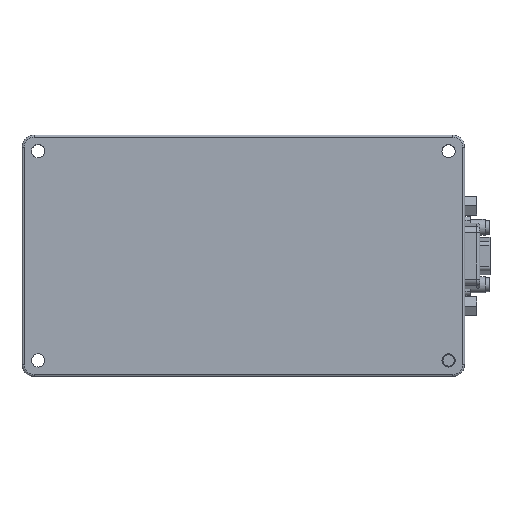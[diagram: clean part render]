
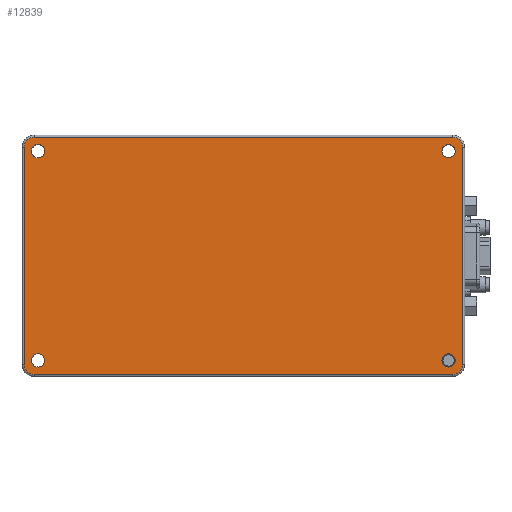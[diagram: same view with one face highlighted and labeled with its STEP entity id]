
A CAD part, top view. The second image highlights one B-rep face of the part: STEP entity #12839.
In plain terms, the highlighted planar face has unit normal (0, 0, 1).
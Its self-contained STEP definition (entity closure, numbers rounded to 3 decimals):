
#42 = CARTESIAN_POINT ( 'NONE',  ( -60.046, -31.058, 154.5 ) ) ;
#252 = FACE_BOUND ( 'NONE', #21934, .T. ) ;
#745 = DIRECTION ( 'NONE',  ( 0., 0., -1. ) ) ;
#895 = EDGE_CURVE ( 'NONE', #31507, #31887, #23465, .T. ) ;
#1125 = VERTEX_POINT ( 'NONE', #16058 ) ;
#1177 = DIRECTION ( 'NONE',  ( 0., 0., -1. ) ) ;
#1201 = AXIS2_PLACEMENT_3D ( 'NONE', #38819, #1617, #4454 ) ;
#1242 = CARTESIAN_POINT ( 'NONE',  ( 45.454, 21.942, 154.5 ) ) ;
#1503 = AXIS2_PLACEMENT_3D ( 'NONE', #36907, #27409, #18507 ) ;
#1617 = DIRECTION ( 'NONE',  ( 0., 0., -1. ) ) ;
#1680 = ORIENTED_EDGE ( 'NONE', *, *, #36743, .T. ) ;
#1703 = FACE_OUTER_BOUND ( 'NONE', #9638, .T. ) ;
#2405 = ORIENTED_EDGE ( 'NONE', *, *, #8089, .T. ) ;
#2677 = DIRECTION ( 'NONE',  ( -1., 0., 0. ) ) ;
#2921 = CIRCLE ( 'NONE', #18698, 1.65 ) ;
#3031 = DIRECTION ( 'NONE',  ( -1., 0., 0. ) ) ;
#3043 = CARTESIAN_POINT ( 'NONE',  ( 42.954, -32.058, 154.5 ) ) ;
#3051 = EDGE_CURVE ( 'NONE', #17385, #20765, #30127, .T. ) ;
#3484 = CARTESIAN_POINT ( 'NONE',  ( -60.046, 20.942, 154.5 ) ) ;
#4315 = VERTEX_POINT ( 'NONE', #28070 ) ;
#4406 = AXIS2_PLACEMENT_3D ( 'NONE', #25781, #1177, #16726 ) ;
#4454 = DIRECTION ( 'NONE',  ( -1., 0., 0. ) ) ;
#4611 = DIRECTION ( 'NONE',  ( 1., 0., 0. ) ) ;
#4883 = EDGE_CURVE ( 'NONE', #24965, #28922, #20375, .T. ) ;
#5067 = EDGE_CURVE ( 'NONE', #17911, #19357, #2921, .T. ) ;
#5469 = CARTESIAN_POINT ( 'NONE',  ( -58.396, 20.942, 154.5 ) ) ;
#6037 = DIRECTION ( 'NONE',  ( 0., 0., 1. ) ) ;
#6222 = CARTESIAN_POINT ( 'NONE',  ( -61.046, -32.058, 154.5 ) ) ;
#6604 = DIRECTION ( 'NONE',  ( 0., 0., -1. ) ) ;
#7366 = VERTEX_POINT ( 'NONE', #14826 ) ;
#7618 = DIRECTION ( 'NONE',  ( 0., 1., 0. ) ) ;
#7651 = VECTOR ( 'NONE', #13584, 1000. ) ;
#8089 = EDGE_CURVE ( 'NONE', #36899, #24732, #28834, .T. ) ;
#8383 = CARTESIAN_POINT ( 'NONE',  ( 42.954, 21.942, 154.5 ) ) ;
#8888 = CARTESIAN_POINT ( 'NONE',  ( -61.696, -31.058, 154.5 ) ) ;
#9329 = DIRECTION ( 'NONE',  ( 0., 0., 1. ) ) ;
#9342 = AXIS2_PLACEMENT_3D ( 'NONE', #42, #21600, #3031 ) ;
#9638 = EDGE_LOOP ( 'NONE', ( #16036, #32773, #39266, #20038, #13589, #1680, #39513, #14583 ) ) ;
#10232 = ORIENTED_EDGE ( 'NONE', *, *, #3051, .T. ) ;
#10499 = EDGE_CURVE ( 'NONE', #31887, #31507, #35215, .T. ) ;
#10618 = EDGE_CURVE ( 'NONE', #7366, #4315, #18780, .T. ) ;
#11238 = EDGE_CURVE ( 'NONE', #28922, #23455, #22176, .T. ) ;
#11248 = PLANE ( 'NONE',  #14338 ) ;
#11431 = EDGE_LOOP ( 'NONE', ( #26435, #32478 ) ) ;
#11488 = DIRECTION ( 'NONE',  ( 1., 0., 0. ) ) ;
#11651 = AXIS2_PLACEMENT_3D ( 'NONE', #3043, #6037, #34266 ) ;
#11718 = AXIS2_PLACEMENT_3D ( 'NONE', #8383, #33355, #11488 ) ;
#12170 = LINE ( 'NONE', #26626, #28582 ) ;
#12232 = ORIENTED_EDGE ( 'NONE', *, *, #5067, .T. ) ;
#12550 = CARTESIAN_POINT ( 'NONE',  ( 40.304, 20.942, 154.5 ) ) ;
#12839 = ADVANCED_FACE ( 'NONE', ( #16705, #28312, #252, #22517, #1703 ), #11248, .T. ) ;
#13471 = VECTOR ( 'NONE', #32522, 1000. ) ;
#13584 = DIRECTION ( 'NONE',  ( -1., 0., 0. ) ) ;
#13589 = ORIENTED_EDGE ( 'NONE', *, *, #11238, .T. ) ;
#14282 = DIRECTION ( 'NONE',  ( 0., 0., -1. ) ) ;
#14338 = AXIS2_PLACEMENT_3D ( 'NONE', #29228, #26772, #4611 ) ;
#14583 = ORIENTED_EDGE ( 'NONE', *, *, #35617, .T. ) ;
#14606 = CARTESIAN_POINT ( 'NONE',  ( 41.954, 20.942, 154.5 ) ) ;
#14826 = CARTESIAN_POINT ( 'NONE',  ( -63.546, 21.942, 154.5 ) ) ;
#15256 = VERTEX_POINT ( 'NONE', #31445 ) ;
#15511 = ORIENTED_EDGE ( 'NONE', *, *, #21363, .T. ) ;
#15891 = CARTESIAN_POINT ( 'NONE',  ( 40.304, -31.058, 154.5 ) ) ;
#16036 = ORIENTED_EDGE ( 'NONE', *, *, #20118, .T. ) ;
#16058 = CARTESIAN_POINT ( 'NONE',  ( -61.046, -34.558, 154.5 ) ) ;
#16572 = CIRCLE ( 'NONE', #4406, 1.65 ) ;
#16705 = FACE_BOUND ( 'NONE', #11431, .T. ) ;
#16726 = DIRECTION ( 'NONE',  ( -1., 0., 0. ) ) ;
#17238 = CARTESIAN_POINT ( 'NONE',  ( 43.604, -31.058, 154.5 ) ) ;
#17347 = DIRECTION ( 'NONE',  ( -1., 0., 0. ) ) ;
#17385 = VERTEX_POINT ( 'NONE', #34849 ) ;
#17855 = CARTESIAN_POINT ( 'NONE',  ( 43.604, 20.942, 154.5 ) ) ;
#17911 = VERTEX_POINT ( 'NONE', #15891 ) ;
#18507 = DIRECTION ( 'NONE',  ( -1., 0., 0. ) ) ;
#18698 = AXIS2_PLACEMENT_3D ( 'NONE', #19032, #745, #37429 ) ;
#18780 = LINE ( 'NONE', #25629, #13471 ) ;
#18969 = EDGE_CURVE ( 'NONE', #24732, #36899, #32029, .T. ) ;
#19032 = CARTESIAN_POINT ( 'NONE',  ( 41.954, -31.058, 154.5 ) ) ;
#19077 = CARTESIAN_POINT ( 'NONE',  ( 42.954, -34.558, 154.5 ) ) ;
#19357 = VERTEX_POINT ( 'NONE', #17238 ) ;
#20038 = ORIENTED_EDGE ( 'NONE', *, *, #4883, .T. ) ;
#20105 = CARTESIAN_POINT ( 'NONE',  ( 45.454, 21.942, 154.5 ) ) ;
#20118 = EDGE_CURVE ( 'NONE', #1125, #24938, #12170, .T. ) ;
#20375 = CIRCLE ( 'NONE', #11718, 2.5 ) ;
#20765 = VERTEX_POINT ( 'NONE', #8888 ) ;
#20777 = CARTESIAN_POINT ( 'NONE',  ( 41.954, -31.058, 154.5 ) ) ;
#21046 = EDGE_LOOP ( 'NONE', ( #12232, #15511 ) ) ;
#21363 = EDGE_CURVE ( 'NONE', #19357, #17911, #35864, .T. ) ;
#21600 = DIRECTION ( 'NONE',  ( 0., 0., -1. ) ) ;
#21934 = EDGE_LOOP ( 'NONE', ( #2405, #32409 ) ) ;
#22176 = LINE ( 'NONE', #22508, #7651 ) ;
#22508 = CARTESIAN_POINT ( 'NONE',  ( -61.046, 24.442, 154.5 ) ) ;
#22517 = FACE_BOUND ( 'NONE', #21046, .T. ) ;
#23455 = VERTEX_POINT ( 'NONE', #27432 ) ;
#23465 = CIRCLE ( 'NONE', #1503, 1.65 ) ;
#23636 = DIRECTION ( 'NONE',  ( 1., 0., 0. ) ) ;
#23746 = AXIS2_PLACEMENT_3D ( 'NONE', #14606, #36228, #2677 ) ;
#24182 = CIRCLE ( 'NONE', #30962, 2.5 ) ;
#24732 = VERTEX_POINT ( 'NONE', #17855 ) ;
#24938 = VERTEX_POINT ( 'NONE', #19077 ) ;
#24965 = VERTEX_POINT ( 'NONE', #20105 ) ;
#25629 = CARTESIAN_POINT ( 'NONE',  ( -63.546, -32.058, 154.5 ) ) ;
#25781 = CARTESIAN_POINT ( 'NONE',  ( -60.046, -31.058, 154.5 ) ) ;
#26435 = ORIENTED_EDGE ( 'NONE', *, *, #10499, .T. ) ;
#26534 = CIRCLE ( 'NONE', #37196, 2.5 ) ;
#26586 = DIRECTION ( 'NONE',  ( 0., 0., 1. ) ) ;
#26626 = CARTESIAN_POINT ( 'NONE',  ( 42.954, -34.558, 154.5 ) ) ;
#26772 = DIRECTION ( 'NONE',  ( 0., 0., 1. ) ) ;
#27125 = VECTOR ( 'NONE', #7618, 1000. ) ;
#27409 = DIRECTION ( 'NONE',  ( 0., 0., -1. ) ) ;
#27432 = CARTESIAN_POINT ( 'NONE',  ( -61.046, 24.442, 154.5 ) ) ;
#27567 = DIRECTION ( 'NONE',  ( 1., 0., 0. ) ) ;
#27655 = EDGE_CURVE ( 'NONE', #24938, #15256, #31164, .T. ) ;
#28070 = CARTESIAN_POINT ( 'NONE',  ( -63.546, -32.058, 154.5 ) ) ;
#28223 = DIRECTION ( 'NONE',  ( -1., 0., 0. ) ) ;
#28312 = FACE_BOUND ( 'NONE', #37459, .T. ) ;
#28488 = EDGE_CURVE ( 'NONE', #20765, #17385, #16572, .T. ) ;
#28582 = VECTOR ( 'NONE', #29344, 1000. ) ;
#28834 = CIRCLE ( 'NONE', #1201, 1.65 ) ;
#28922 = VERTEX_POINT ( 'NONE', #37551 ) ;
#29228 = CARTESIAN_POINT ( 'NONE',  ( -9.046, -5.058, 154.5 ) ) ;
#29344 = DIRECTION ( 'NONE',  ( 1., 0., 0. ) ) ;
#29579 = CARTESIAN_POINT ( 'NONE',  ( -61.046, 21.942, 154.5 ) ) ;
#29720 = AXIS2_PLACEMENT_3D ( 'NONE', #20777, #14282, #17347 ) ;
#29827 = EDGE_CURVE ( 'NONE', #15256, #24965, #37317, .T. ) ;
#30127 = CIRCLE ( 'NONE', #9342, 1.65 ) ;
#30962 = AXIS2_PLACEMENT_3D ( 'NONE', #6222, #9329, #27567 ) ;
#31164 = CIRCLE ( 'NONE', #11651, 2.5 ) ;
#31445 = CARTESIAN_POINT ( 'NONE',  ( 45.454, -32.058, 154.5 ) ) ;
#31507 = VERTEX_POINT ( 'NONE', #5469 ) ;
#31887 = VERTEX_POINT ( 'NONE', #32448 ) ;
#32029 = CIRCLE ( 'NONE', #23746, 1.65 ) ;
#32409 = ORIENTED_EDGE ( 'NONE', *, *, #18969, .T. ) ;
#32448 = CARTESIAN_POINT ( 'NONE',  ( -61.696, 20.942, 154.5 ) ) ;
#32478 = ORIENTED_EDGE ( 'NONE', *, *, #895, .T. ) ;
#32522 = DIRECTION ( 'NONE',  ( 0., -1., 0. ) ) ;
#32773 = ORIENTED_EDGE ( 'NONE', *, *, #27655, .T. ) ;
#33355 = DIRECTION ( 'NONE',  ( 0., 0., 1. ) ) ;
#34266 = DIRECTION ( 'NONE',  ( 1., 0., 0. ) ) ;
#34849 = CARTESIAN_POINT ( 'NONE',  ( -58.396, -31.058, 154.5 ) ) ;
#34914 = ORIENTED_EDGE ( 'NONE', *, *, #28488, .T. ) ;
#35215 = CIRCLE ( 'NONE', #36831, 1.65 ) ;
#35617 = EDGE_CURVE ( 'NONE', #4315, #1125, #24182, .T. ) ;
#35864 = CIRCLE ( 'NONE', #29720, 1.65 ) ;
#36228 = DIRECTION ( 'NONE',  ( 0., 0., -1. ) ) ;
#36743 = EDGE_CURVE ( 'NONE', #23455, #7366, #26534, .T. ) ;
#36831 = AXIS2_PLACEMENT_3D ( 'NONE', #3484, #6604, #28223 ) ;
#36899 = VERTEX_POINT ( 'NONE', #12550 ) ;
#36907 = CARTESIAN_POINT ( 'NONE',  ( -60.046, 20.942, 154.5 ) ) ;
#37196 = AXIS2_PLACEMENT_3D ( 'NONE', #29579, #26586, #23636 ) ;
#37317 = LINE ( 'NONE', #1242, #27125 ) ;
#37429 = DIRECTION ( 'NONE',  ( -1., 0., 0. ) ) ;
#37459 = EDGE_LOOP ( 'NONE', ( #34914, #10232 ) ) ;
#37551 = CARTESIAN_POINT ( 'NONE',  ( 42.954, 24.442, 154.5 ) ) ;
#38819 = CARTESIAN_POINT ( 'NONE',  ( 41.954, 20.942, 154.5 ) ) ;
#39266 = ORIENTED_EDGE ( 'NONE', *, *, #29827, .T. ) ;
#39513 = ORIENTED_EDGE ( 'NONE', *, *, #10618, .T. ) ;
